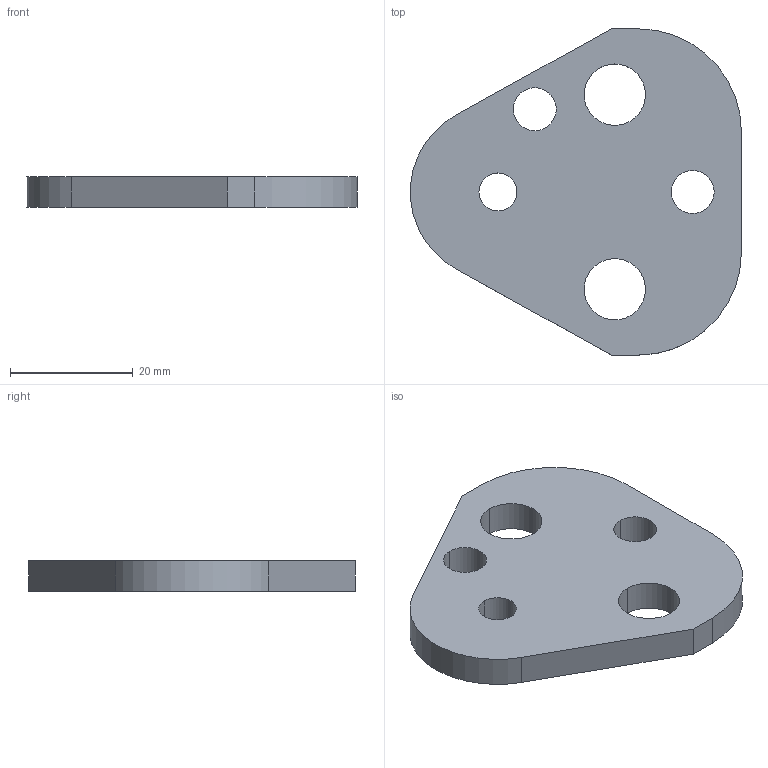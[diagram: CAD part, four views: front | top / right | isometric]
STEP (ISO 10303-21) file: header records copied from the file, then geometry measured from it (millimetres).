
FILE_DESCRIPTION(/* description */ (''),/* implementation_level */ '2;1');
FILE_NAME(/* name */ '3d_crnbp16_03637_r00.stp',/* time_stamp */ '2011-01-10T14:16:19+09:00',/* author */ ('MISUMI'),/* organization */ (''),/* preprocessor_version */ 'ST-DEVELOPER v11',/* originating_system */ 'UGS - NX 5.0',/* authorisation */ '');
FILE_SCHEMA (('CONFIG_CONTROL_DESIGN'));
Length unit declared in the file: millimetre
Products named in the file (1): 3d_crnbp16_03637_r00
Bounding box: 53.95 x 53.2 x 5 mm (x, y, z)
Volume: 9340.9 mm3; surface area: 5216.7 mm2
Topology: 1 solids, 1 shells, 20 faces, 54 edges, 36 vertices
Faces by surface type: cylinder 13, plane 7
Entity records: 750 total; most frequent: DIRECTION 122, CARTESIAN_POINT 111, ORIENTED_EDGE 108, EDGE_CURVE 54, AXIS2_PLACEMENT_3D 47, VERTEX_POINT 36, EDGE_LOOP 30, LINE 28
